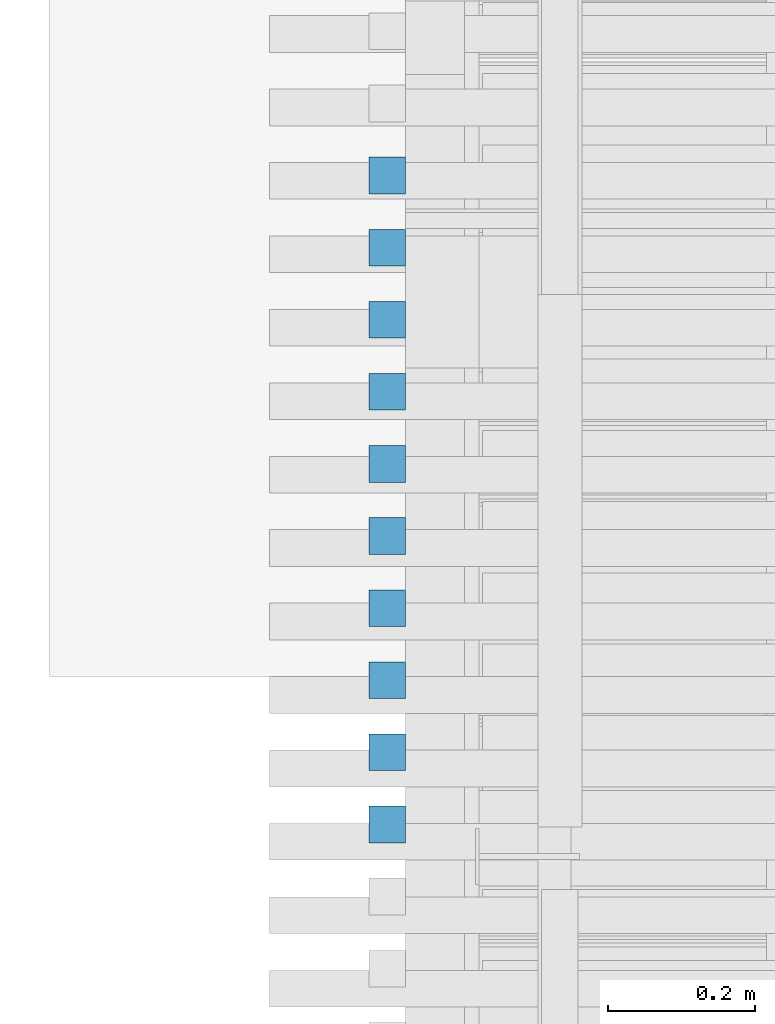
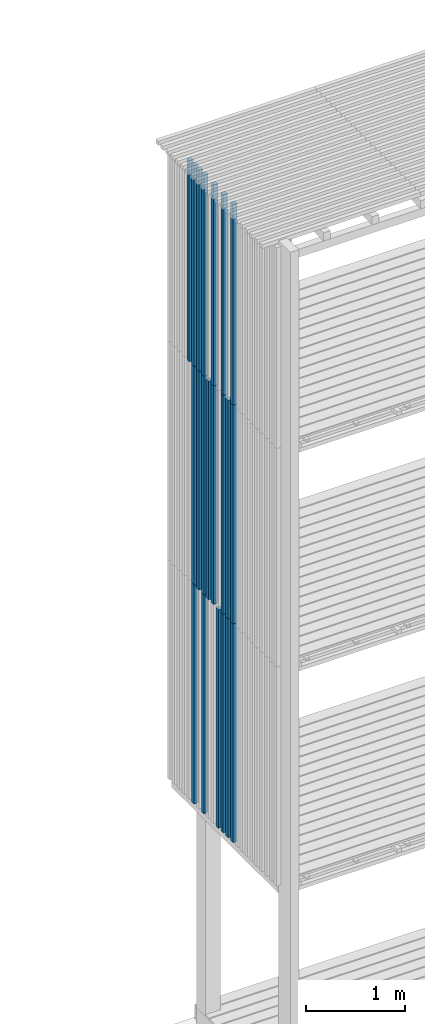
# One storey, part 141 of 182: 21 beams.
"""IFC2X3 building model written with IfcOpenShell, lengths in metres."""

from ifc_helpers import new_model, si_unit, frame, origin, place, context, project, spatial, faceted_brep, element, save


model = new_model("IFC2X3")

# Units and contexts
model_context = context("Model", 3, precision=1e-06, world=origin())
ifc_project = project(units=[si_unit("LENGTHUNIT", "METRE"), si_unit("PLANEANGLEUNIT", "RADIAN")], contexts=[model_context])

# Site, building, storey
site = spatial("IfcSite", under=ifc_project, CompositionType="ELEMENT")
building = spatial("IfcBuilding", under=site, CompositionType="ELEMENT")
storey = spatial("IfcBuildingStorey", under=building, Name="vs", CompositionType="ELEMENT", Elevation=-0.85)

# Beams
placement = place(None, origin())
beam_1_placement = place(placement, frame((33.029999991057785, 11.765077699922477, 7.974999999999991), z_axis=(1.0, 0.0, 0.0), x_axis=(0.0, 1e-15, 1.0)))
element("IfcBeam", 1, at=beam_1_placement, inside=storey, Name="Bardage", context=model_context, shape_type="Brep", body=[
    faceted_brep([(0.0, -0.025000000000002, 0.025000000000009), (0.0, 0.024999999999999, 0.025000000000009), (0.0, 0.024999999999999, -0.025000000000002), (0.0, -0.025000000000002, -0.025000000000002), (2.479999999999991, 0.025000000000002, -0.025000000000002), (2.479999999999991, 0.025000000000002, 0.025000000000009), (2.479999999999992, -0.025000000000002, 0.025000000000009), (2.479999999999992, -0.025000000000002, -0.025000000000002), (0.0, 0.024999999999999, 0.025000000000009), (0.0, -0.025000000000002, 0.025000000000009), (2.479999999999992, -0.025000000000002, 0.025000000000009), (2.479999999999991, 0.025000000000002, 0.025000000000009), (0.0, 0.024999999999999, -0.025000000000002), (0.0, 0.024999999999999, 0.025000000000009), (2.479999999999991, 0.025000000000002, 0.025000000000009), (2.479999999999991, 0.025000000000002, -0.025000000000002), (0.0, -0.025000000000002, -0.025000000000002), (0.0, 0.024999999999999, -0.025000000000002), (2.479999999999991, 0.025000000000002, -0.025000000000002), (2.479999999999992, -0.025000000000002, -0.025000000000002), (2.479999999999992, -0.025000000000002, 0.025000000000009), (0.0, -0.025000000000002, 0.025000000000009), (0.0, -0.025000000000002, -0.025000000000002), (2.479999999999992, -0.025000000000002, -0.025000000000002)], [[[0, 1, 2, 3]], [[4, 5, 6, 7]], [[8, 9, 10, 11]], [[12, 13, 14, 15]], [[16, 17, 18, 19]], [[20, 21, 22, 23]]]),
])
beam_2_placement = place(placement, frame((33.029999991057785, 12.157804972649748, 5.274999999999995), z_axis=(1.0, 0.0, 0.0), x_axis=(0.0, 0.0, 1.0)))
element("IfcBeam", 2, at=beam_2_placement, inside=storey, Name="Bardage", context=model_context, shape_type="Brep", body=[
    faceted_brep([(2.699999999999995, 0.024999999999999, 0.025000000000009), (2.699999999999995, -0.024999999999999, 0.025000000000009), (2.699999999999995, -0.024999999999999, -0.025000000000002), (2.699999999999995, 0.024999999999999, -0.025000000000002), (1e-15, 0.024999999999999, 0.025000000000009), (2.699999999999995, 0.024999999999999, 0.025000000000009), (2.699999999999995, 0.024999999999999, -0.025000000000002), (1e-15, 0.024999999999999, -0.025000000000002), (1e-15, -0.024999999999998, 0.025000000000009), (1e-15, 0.024999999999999, 0.025000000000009), (1e-15, 0.024999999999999, -0.025000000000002), (1e-15, -0.024999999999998, -0.025000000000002), (1e-15, 0.024999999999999, 0.025000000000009), (1e-15, -0.024999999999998, 0.025000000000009), (2.699999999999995, -0.024999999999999, 0.025000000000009), (2.699999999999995, 0.024999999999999, 0.025000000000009), (1e-15, -0.024999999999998, 0.025000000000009), (1e-15, -0.024999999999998, -0.025000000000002), (2.699999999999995, -0.024999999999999, -0.025000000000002), (2.699999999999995, -0.024999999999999, 0.025000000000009), (1e-15, -0.024999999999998, -0.025000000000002), (1e-15, 0.024999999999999, -0.025000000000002), (2.699999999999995, 0.024999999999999, -0.025000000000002), (2.699999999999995, -0.024999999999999, -0.025000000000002)], [[[0, 1, 2, 3]], [[4, 5, 6, 7]], [[8, 9, 10, 11]], [[12, 13, 14, 15]], [[16, 17, 18, 19]], [[20, 21, 22, 23]]]),
])
beam_3_placement = place(placement, frame((33.029999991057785, 11.765077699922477, 5.274999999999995), z_axis=(1.0, 0.0, 0.0), x_axis=(0.0, 1e-15, 1.0)))
element("IfcBeam", 3, at=beam_3_placement, inside=storey, Name="Bardage", context=model_context, shape_type="Brep", body=[
    faceted_brep([(2.699999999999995, 0.025000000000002, 0.025000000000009), (2.699999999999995, -0.025000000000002, 0.025000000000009), (2.699999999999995, -0.025000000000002, -0.025000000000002), (2.699999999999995, 0.025000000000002, -0.025000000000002), (1e-15, 0.024999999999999, 0.025000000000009), (2.699999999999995, 0.025000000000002, 0.025000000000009), (2.699999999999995, 0.025000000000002, -0.025000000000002), (1e-15, 0.024999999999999, -0.025000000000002), (1e-15, -0.025000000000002, 0.025000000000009), (1e-15, 0.024999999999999, 0.025000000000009), (1e-15, 0.024999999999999, -0.025000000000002), (1e-15, -0.025000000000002, -0.025000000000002), (1e-15, 0.024999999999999, 0.025000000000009), (1e-15, -0.025000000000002, 0.025000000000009), (2.699999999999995, -0.025000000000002, 0.025000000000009), (2.699999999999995, 0.025000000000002, 0.025000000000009), (1e-15, -0.025000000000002, 0.025000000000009), (1e-15, -0.025000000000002, -0.025000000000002), (2.699999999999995, -0.025000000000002, -0.025000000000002), (2.699999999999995, -0.025000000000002, 0.025000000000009), (1e-15, -0.025000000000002, -0.025000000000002), (1e-15, 0.024999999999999, -0.025000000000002), (2.699999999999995, 0.025000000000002, -0.025000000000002), (2.699999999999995, -0.025000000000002, -0.025000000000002)], [[[0, 1, 2, 3]], [[4, 5, 6, 7]], [[8, 9, 10, 11]], [[12, 13, 14, 15]], [[16, 17, 18, 19]], [[20, 21, 22, 23]]]),
])
beam_4_placement = place(placement, frame((33.029999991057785, 11.666895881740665, 2.575000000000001), z_axis=(1.0, 0.0, 0.0), x_axis=(0.0, 0.0, 1.0)))
element("IfcBeam", 4, at=beam_4_placement, inside=storey, Name="Bardage", context=model_context, shape_type="Brep", body=[
    faceted_brep([(2.699961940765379, -0.024999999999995, 0.025000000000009), (2.699961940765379, -0.024999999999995, -0.025000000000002), (2.699961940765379, 0.025000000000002, -0.025000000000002), (2.699961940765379, 0.025000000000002, 0.025000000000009), (0.0, -0.024999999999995, 0.025000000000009), (2.699961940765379, -0.024999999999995, 0.025000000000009), (2.699961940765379, 0.025000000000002, 0.025000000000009), (0.0, 0.025000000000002, 0.025000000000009), (0.0, -0.024999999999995, 0.025000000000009), (0.0, 0.025000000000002, 0.025000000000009), (0.0, 0.025000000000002, -0.025000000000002), (0.0, -0.024999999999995, -0.025000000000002), (0.0, -0.024999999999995, 0.025000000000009), (0.0, -0.024999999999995, -0.025000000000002), (2.699961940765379, -0.024999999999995, -0.025000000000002), (2.699961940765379, -0.024999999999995, 0.025000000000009), (0.0, -0.024999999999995, -0.025000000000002), (0.0, 0.025000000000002, -0.025000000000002), (2.699961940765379, 0.025000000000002, -0.025000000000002), (2.699961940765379, -0.024999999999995, -0.025000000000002), (0.0, 0.025000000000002, -0.025000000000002), (0.0, 0.025000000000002, 0.025000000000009), (2.699961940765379, 0.025000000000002, 0.025000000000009), (2.699961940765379, 0.025000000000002, -0.025000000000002)], [[[0, 1, 2, 3]], [[4, 5, 6, 7]], [[8, 9, 10, 11]], [[12, 13, 14, 15]], [[16, 17, 18, 19]], [[20, 21, 22, 23]]]),
])
beam_5_placement = place(placement, frame((33.029999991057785, 12.354168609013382, 7.974999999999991), z_axis=(1.0, 0.0, 0.0), x_axis=(0.0, 0.0, 1.0)))
element("IfcBeam", 5, at=beam_5_placement, inside=storey, Name="Bardage", context=model_context, shape_type="Brep", body=[
    faceted_brep([(0.0, -0.024999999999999, 0.025000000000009), (0.0, 0.025000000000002, 0.025000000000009), (0.0, 0.025000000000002, -0.025000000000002), (0.0, -0.024999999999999, -0.025000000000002), (2.479999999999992, 0.025000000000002, -0.025000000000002), (2.479999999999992, 0.025000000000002, 0.025000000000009), (2.479999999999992, -0.024999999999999, 0.025000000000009), (2.479999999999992, -0.024999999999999, -0.025000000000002), (0.0, 0.025000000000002, 0.025000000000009), (0.0, -0.024999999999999, 0.025000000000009), (2.479999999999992, -0.024999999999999, 0.025000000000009), (2.479999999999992, 0.025000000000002, 0.025000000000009), (0.0, 0.025000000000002, -0.025000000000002), (0.0, 0.025000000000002, 0.025000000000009), (2.479999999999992, 0.025000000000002, 0.025000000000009), (2.479999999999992, 0.025000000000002, -0.025000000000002), (0.0, -0.024999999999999, -0.025000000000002), (0.0, 0.025000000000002, -0.025000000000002), (2.479999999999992, 0.025000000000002, -0.025000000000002), (2.479999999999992, -0.024999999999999, -0.025000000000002), (2.479999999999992, -0.024999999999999, 0.025000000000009), (0.0, -0.024999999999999, 0.025000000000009), (0.0, -0.024999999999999, -0.025000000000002), (2.479999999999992, -0.024999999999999, -0.025000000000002)], [[[0, 1, 2, 3]], [[4, 5, 6, 7]], [[8, 9, 10, 11]], [[12, 13, 14, 15]], [[16, 17, 18, 19]], [[20, 21, 22, 23]]]),
])
for number, where, z_axis, x_axis in (
    (6, (33.029999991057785, 11.961441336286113, 7.974999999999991), (1.0, 0.0, 0.0), (0.0, 0.0, 1.0)),
    (7, (33.029999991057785, 12.157804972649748, 7.974999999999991), (1.0, 0.0, 0.0), (0.0, 0.0, 1.0)),
):
    element("IfcBeam", number, at=place(placement, frame(where, z_axis=z_axis, x_axis=x_axis)), inside=storey, Name="Bardage", context=model_context, shape_type="Brep", body=[
        faceted_brep([(0.0, -0.024999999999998, 0.025000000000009), (0.0, 0.024999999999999, 0.025000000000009), (0.0, 0.024999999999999, -0.025000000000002), (0.0, -0.024999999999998, -0.025000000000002), (2.479999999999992, 0.024999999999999, -0.025000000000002), (2.479999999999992, 0.024999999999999, 0.025000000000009), (2.479999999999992, -0.024999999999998, 0.025000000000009), (2.479999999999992, -0.024999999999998, -0.025000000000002), (0.0, 0.024999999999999, 0.025000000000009), (0.0, -0.024999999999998, 0.025000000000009), (2.479999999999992, -0.024999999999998, 0.025000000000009), (2.479999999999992, 0.024999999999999, 0.025000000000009), (0.0, 0.024999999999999, -0.025000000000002), (0.0, 0.024999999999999, 0.025000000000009), (2.479999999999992, 0.024999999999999, 0.025000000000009), (2.479999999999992, 0.024999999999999, -0.025000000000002), (0.0, -0.024999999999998, -0.025000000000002), (0.0, 0.024999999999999, -0.025000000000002), (2.479999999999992, 0.024999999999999, -0.025000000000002), (2.479999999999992, -0.024999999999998, -0.025000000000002), (2.479999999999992, -0.024999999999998, 0.025000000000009), (0.0, -0.024999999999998, 0.025000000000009), (0.0, -0.024999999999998, -0.025000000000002), (2.479999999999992, -0.024999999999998, -0.025000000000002)], [[[0, 1, 2, 3]], [[4, 5, 6, 7]], [[8, 9, 10, 11]], [[12, 13, 14, 15]], [[16, 17, 18, 19]], [[20, 21, 22, 23]]]),
    ])
beam_6_placement = place(placement, frame((33.029999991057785, 12.059623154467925, 5.274999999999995), z_axis=(1.0, 0.0, 0.0), x_axis=(0.0, 0.0, 1.0)))
element("IfcBeam", 8, at=beam_6_placement, inside=storey, Name="Bardage", context=model_context, shape_type="Brep", body=[
    faceted_brep([(2.699999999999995, 0.024999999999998, 0.025000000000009), (2.699999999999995, -0.025000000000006, 0.025000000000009), (2.699999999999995, -0.025000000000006, -0.025000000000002), (2.699999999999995, 0.024999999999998, -0.025000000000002), (1e-15, 0.024999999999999, 0.025000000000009), (2.699999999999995, 0.024999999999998, 0.025000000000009), (2.699999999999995, 0.024999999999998, -0.025000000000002), (1e-15, 0.024999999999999, -0.025000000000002), (1e-15, -0.025000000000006, 0.025000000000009), (1e-15, 0.024999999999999, 0.025000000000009), (1e-15, 0.024999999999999, -0.025000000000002), (1e-15, -0.025000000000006, -0.025000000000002), (1e-15, 0.024999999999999, 0.025000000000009), (1e-15, -0.025000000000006, 0.025000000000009), (2.699999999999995, -0.025000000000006, 0.025000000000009), (2.699999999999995, 0.024999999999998, 0.025000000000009), (1e-15, -0.025000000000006, 0.025000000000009), (1e-15, -0.025000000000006, -0.025000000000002), (2.699999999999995, -0.025000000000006, -0.025000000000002), (2.699999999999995, -0.025000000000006, 0.025000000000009), (1e-15, -0.025000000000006, -0.025000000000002), (1e-15, 0.024999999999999, -0.025000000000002), (2.699999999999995, 0.024999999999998, -0.025000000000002), (2.699999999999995, -0.025000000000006, -0.025000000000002)], [[[0, 1, 2, 3]], [[4, 5, 6, 7]], [[8, 9, 10, 11]], [[12, 13, 14, 15]], [[16, 17, 18, 19]], [[20, 21, 22, 23]]]),
])
beam_7_placement = place(placement, frame((33.029999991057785, 11.961441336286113, 5.274999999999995), z_axis=(1.0, 0.0, 0.0), x_axis=(0.0, 0.0, 1.0)))
element("IfcBeam", 9, at=beam_7_placement, inside=storey, Name="Bardage", context=model_context, shape_type="Brep", body=[
    faceted_brep([(2.699999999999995, 0.024999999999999, 0.025000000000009), (2.699999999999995, -0.024999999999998, 0.025000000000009), (2.699999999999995, -0.024999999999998, -0.025000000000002), (2.699999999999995, 0.024999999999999, -0.025000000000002), (1e-15, 0.024999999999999, 0.025000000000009), (2.699999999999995, 0.024999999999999, 0.025000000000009), (2.699999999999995, 0.024999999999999, -0.025000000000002), (1e-15, 0.024999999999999, -0.025000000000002), (1e-15, -0.024999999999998, 0.025000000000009), (1e-15, 0.024999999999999, 0.025000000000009), (1e-15, 0.024999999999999, -0.025000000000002), (1e-15, -0.024999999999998, -0.025000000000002), (1e-15, 0.024999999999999, 0.025000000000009), (1e-15, -0.024999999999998, 0.025000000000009), (2.699999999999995, -0.024999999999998, 0.025000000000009), (2.699999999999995, 0.024999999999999, 0.025000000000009), (1e-15, -0.024999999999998, 0.025000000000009), (1e-15, -0.024999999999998, -0.025000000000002), (2.699999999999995, -0.024999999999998, -0.025000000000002), (2.699999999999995, -0.024999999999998, 0.025000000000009), (1e-15, -0.024999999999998, -0.025000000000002), (1e-15, 0.024999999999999, -0.025000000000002), (2.699999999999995, 0.024999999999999, -0.025000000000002), (2.699999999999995, -0.024999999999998, -0.025000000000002)], [[[0, 1, 2, 3]], [[4, 5, 6, 7]], [[8, 9, 10, 11]], [[12, 13, 14, 15]], [[16, 17, 18, 19]], [[20, 21, 22, 23]]]),
])
beam_8_placement = place(placement, frame((33.029999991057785, 11.568714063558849, 5.274999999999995), z_axis=(1.0, 0.0, 0.0), x_axis=(0.0, 0.0, 1.0)))
element("IfcBeam", 10, at=beam_8_placement, inside=storey, Name="Bardage", context=model_context, shape_type="Brep", body=[
    faceted_brep([(2.699999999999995, 0.025000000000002, 0.025000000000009), (2.699999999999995, -0.024999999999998, 0.025000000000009), (2.699999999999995, -0.024999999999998, -0.025000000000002), (2.699999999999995, 0.025000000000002, -0.025000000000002), (1e-15, 0.025000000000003, 0.025000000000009), (2.699999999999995, 0.025000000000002, 0.025000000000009), (2.699999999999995, 0.025000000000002, -0.025000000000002), (1e-15, 0.025000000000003, -0.025000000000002), (1e-15, -0.024999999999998, 0.025000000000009), (1e-15, 0.025000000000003, 0.025000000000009), (1e-15, 0.025000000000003, -0.025000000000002), (1e-15, -0.024999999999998, -0.025000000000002), (1e-15, 0.025000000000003, 0.025000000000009), (1e-15, -0.024999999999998, 0.025000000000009), (2.699999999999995, -0.024999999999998, 0.025000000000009), (2.699999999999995, 0.025000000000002, 0.025000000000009), (1e-15, -0.024999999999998, 0.025000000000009), (1e-15, -0.024999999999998, -0.025000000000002), (2.699999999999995, -0.024999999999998, -0.025000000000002), (2.699999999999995, -0.024999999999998, 0.025000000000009), (1e-15, -0.024999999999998, -0.025000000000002), (1e-15, 0.025000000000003, -0.025000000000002), (2.699999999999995, 0.025000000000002, -0.025000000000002), (2.699999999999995, -0.024999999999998, -0.025000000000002)], [[[0, 1, 2, 3]], [[4, 5, 6, 7]], [[8, 9, 10, 11]], [[12, 13, 14, 15]], [[16, 17, 18, 19]], [[20, 21, 22, 23]]]),
])
beam_9_placement = place(placement, frame((33.029999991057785, 12.354168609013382, 2.575000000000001), z_axis=(1.0, 0.0, 0.0), x_axis=(0.0, 0.0, 1.0)))
element("IfcBeam", 11, at=beam_9_placement, inside=storey, Name="Bardage", context=model_context, shape_type="Brep", body=[
    faceted_brep([(2.699961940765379, -0.024999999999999, 0.025000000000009), (2.699961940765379, -0.024999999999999, -0.025000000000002), (2.699961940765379, 0.025000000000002, -0.025000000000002), (2.699961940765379, 0.025000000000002, 0.025000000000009), (0.0, -0.024999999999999, 0.025000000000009), (2.699961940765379, -0.024999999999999, 0.025000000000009), (2.699961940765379, 0.025000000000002, 0.025000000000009), (0.0, 0.025000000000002, 0.025000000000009), (0.0, -0.024999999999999, 0.025000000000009), (0.0, 0.025000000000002, 0.025000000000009), (0.0, 0.025000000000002, -0.025000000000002), (0.0, -0.024999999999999, -0.025000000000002), (0.0, -0.024999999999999, 0.025000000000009), (0.0, -0.024999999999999, -0.025000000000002), (2.699961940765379, -0.024999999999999, -0.025000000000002), (2.699961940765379, -0.024999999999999, 0.025000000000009), (0.0, -0.024999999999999, -0.025000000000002), (0.0, 0.025000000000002, -0.025000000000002), (2.699961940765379, 0.025000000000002, -0.025000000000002), (2.699961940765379, -0.024999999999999, -0.025000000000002), (0.0, 0.025000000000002, -0.025000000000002), (0.0, 0.025000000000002, 0.025000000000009), (2.699961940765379, 0.025000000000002, 0.025000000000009), (2.699961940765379, 0.025000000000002, -0.025000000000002)], [[[0, 1, 2, 3]], [[4, 5, 6, 7]], [[8, 9, 10, 11]], [[12, 13, 14, 15]], [[16, 17, 18, 19]], [[20, 21, 22, 23]]]),
])
beam_10_placement = place(placement, frame((33.029999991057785, 11.568714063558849, 2.575000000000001), z_axis=(1.0, 0.0, 0.0), x_axis=(0.0, 0.0, 1.0)))
element("IfcBeam", 12, at=beam_10_placement, inside=storey, Name="Bardage", context=model_context, shape_type="Brep", body=[
    faceted_brep([(2.699961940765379, -0.024999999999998, 0.025000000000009), (2.699961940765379, -0.024999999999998, -0.025000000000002), (2.699961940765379, 0.025000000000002, -0.025000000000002), (2.699961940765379, 0.025000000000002, 0.025000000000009), (0.0, -0.024999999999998, 0.025000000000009), (2.699961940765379, -0.024999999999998, 0.025000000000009), (2.699961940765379, 0.025000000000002, 0.025000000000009), (0.0, 0.025000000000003, 0.025000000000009), (0.0, -0.024999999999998, 0.025000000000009), (0.0, 0.025000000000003, 0.025000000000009), (0.0, 0.025000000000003, -0.025000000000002), (0.0, -0.024999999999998, -0.025000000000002), (0.0, -0.024999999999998, 0.025000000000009), (0.0, -0.024999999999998, -0.025000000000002), (2.699961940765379, -0.024999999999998, -0.025000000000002), (2.699961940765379, -0.024999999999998, 0.025000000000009), (0.0, -0.024999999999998, -0.025000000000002), (0.0, 0.025000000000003, -0.025000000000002), (2.699961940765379, 0.025000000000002, -0.025000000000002), (2.699961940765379, -0.024999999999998, -0.025000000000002), (0.0, 0.025000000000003, -0.025000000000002), (0.0, 0.025000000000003, 0.025000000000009), (2.699961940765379, 0.025000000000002, 0.025000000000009), (2.699961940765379, 0.025000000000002, -0.025000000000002)], [[[0, 1, 2, 3]], [[4, 5, 6, 7]], [[8, 9, 10, 11]], [[12, 13, 14, 15]], [[16, 17, 18, 19]], [[20, 21, 22, 23]]]),
])
beam_11_placement = place(placement, frame((33.029999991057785, 12.255986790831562, 7.974999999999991), z_axis=(1.0, 0.0, 0.0), x_axis=(0.0, 0.0, 1.0)))
element("IfcBeam", 13, at=beam_11_placement, inside=storey, Name="Bardage", context=model_context, shape_type="Brep", body=[
    faceted_brep([(0.0, -0.025000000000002, 0.025000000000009), (0.0, 0.024999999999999, 0.025000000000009), (0.0, 0.024999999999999, -0.025000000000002), (0.0, -0.025000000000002, -0.025000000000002), (2.479999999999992, 0.024999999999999, -0.025000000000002), (2.479999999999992, 0.024999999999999, 0.025000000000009), (2.479999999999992, -0.025000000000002, 0.025000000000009), (2.479999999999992, -0.025000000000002, -0.025000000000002), (0.0, 0.024999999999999, 0.025000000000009), (0.0, -0.025000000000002, 0.025000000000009), (2.479999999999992, -0.025000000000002, 0.025000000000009), (2.479999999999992, 0.024999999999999, 0.025000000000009), (0.0, 0.024999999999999, -0.025000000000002), (0.0, 0.024999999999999, 0.025000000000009), (2.479999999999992, 0.024999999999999, 0.025000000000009), (2.479999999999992, 0.024999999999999, -0.025000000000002), (0.0, -0.025000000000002, -0.025000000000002), (0.0, 0.024999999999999, -0.025000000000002), (2.479999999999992, 0.024999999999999, -0.025000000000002), (2.479999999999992, -0.025000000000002, -0.025000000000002), (2.479999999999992, -0.025000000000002, 0.025000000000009), (0.0, -0.025000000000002, 0.025000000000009), (0.0, -0.025000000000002, -0.025000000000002), (2.479999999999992, -0.025000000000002, -0.025000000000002)], [[[0, 1, 2, 3]], [[4, 5, 6, 7]], [[8, 9, 10, 11]], [[12, 13, 14, 15]], [[16, 17, 18, 19]], [[20, 21, 22, 23]]]),
])
beam_12_placement = place(placement, frame((33.029999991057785, 11.568714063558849, 7.974999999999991), z_axis=(1.0, 0.0, 0.0), x_axis=(0.0, 0.0, 1.0)))
element("IfcBeam", 14, at=beam_12_placement, inside=storey, Name="Bardage", context=model_context, shape_type="Brep", body=[
    faceted_brep([(0.0, -0.024999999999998, 0.025000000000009), (0.0, 0.025000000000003, 0.025000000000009), (0.0, 0.025000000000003, -0.025000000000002), (0.0, -0.024999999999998, -0.025000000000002), (2.479999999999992, 0.025000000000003, -0.025000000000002), (2.479999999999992, 0.025000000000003, 0.025000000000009), (2.479999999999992, -0.024999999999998, 0.025000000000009), (2.479999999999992, -0.024999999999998, -0.025000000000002), (0.0, 0.025000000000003, 0.025000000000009), (0.0, -0.024999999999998, 0.025000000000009), (2.479999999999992, -0.024999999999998, 0.025000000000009), (2.479999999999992, 0.025000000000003, 0.025000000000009), (0.0, 0.025000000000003, -0.025000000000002), (0.0, 0.025000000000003, 0.025000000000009), (2.479999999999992, 0.025000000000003, 0.025000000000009), (2.479999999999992, 0.025000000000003, -0.025000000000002), (0.0, -0.024999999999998, -0.025000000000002), (0.0, 0.025000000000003, -0.025000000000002), (2.479999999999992, 0.025000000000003, -0.025000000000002), (2.479999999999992, -0.024999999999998, -0.025000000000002), (2.479999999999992, -0.024999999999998, 0.025000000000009), (0.0, -0.024999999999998, 0.025000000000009), (0.0, -0.024999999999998, -0.025000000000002), (2.479999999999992, -0.024999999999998, -0.025000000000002)], [[[0, 1, 2, 3]], [[4, 5, 6, 7]], [[8, 9, 10, 11]], [[12, 13, 14, 15]], [[16, 17, 18, 19]], [[20, 21, 22, 23]]]),
])
beam_13_placement = place(placement, frame((33.029999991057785, 11.666895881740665, 5.274999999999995), z_axis=(1.0, 0.0, 0.0), x_axis=(0.0, 0.0, 1.0)))
element("IfcBeam", 15, at=beam_13_placement, inside=storey, Name="Bardage", context=model_context, shape_type="Brep", body=[
    faceted_brep([(2.699999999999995, 0.025000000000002, 0.025000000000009), (2.699999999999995, -0.024999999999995, 0.025000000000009), (2.699999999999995, -0.024999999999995, -0.025000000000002), (2.699999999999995, 0.025000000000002, -0.025000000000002), (1e-15, 0.025000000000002, 0.025000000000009), (2.699999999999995, 0.025000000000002, 0.025000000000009), (2.699999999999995, 0.025000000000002, -0.025000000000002), (1e-15, 0.025000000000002, -0.025000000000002), (1e-15, -0.024999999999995, 0.025000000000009), (1e-15, 0.025000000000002, 0.025000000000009), (1e-15, 0.025000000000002, -0.025000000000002), (1e-15, -0.024999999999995, -0.025000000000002), (1e-15, 0.025000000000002, 0.025000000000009), (1e-15, -0.024999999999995, 0.025000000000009), (2.699999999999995, -0.024999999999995, 0.025000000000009), (2.699999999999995, 0.025000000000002, 0.025000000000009), (1e-15, -0.024999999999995, 0.025000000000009), (1e-15, -0.024999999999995, -0.025000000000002), (2.699999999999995, -0.024999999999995, -0.025000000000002), (2.699999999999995, -0.024999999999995, 0.025000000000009), (1e-15, -0.024999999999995, -0.025000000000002), (1e-15, 0.025000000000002, -0.025000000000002), (2.699999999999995, 0.025000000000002, -0.025000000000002), (2.699999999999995, -0.024999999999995, -0.025000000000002)], [[[0, 1, 2, 3]], [[4, 5, 6, 7]], [[8, 9, 10, 11]], [[12, 13, 14, 15]], [[16, 17, 18, 19]], [[20, 21, 22, 23]]]),
])
beam_14_placement = place(placement, frame((33.029999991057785, 12.354168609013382, 5.274999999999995), z_axis=(1.0, 0.0, 0.0), x_axis=(0.0, 0.0, 1.0)))
element("IfcBeam", 16, at=beam_14_placement, inside=storey, Name="Bardage", context=model_context, shape_type="Brep", body=[
    faceted_brep([(2.699999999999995, 0.025000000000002, 0.025000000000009), (2.699999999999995, -0.024999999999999, 0.025000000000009), (2.699999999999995, -0.024999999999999, -0.025000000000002), (2.699999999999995, 0.025000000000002, -0.025000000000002), (1e-15, 0.025000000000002, 0.025000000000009), (2.699999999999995, 0.025000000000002, 0.025000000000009), (2.699999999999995, 0.025000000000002, -0.025000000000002), (1e-15, 0.025000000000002, -0.025000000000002), (1e-15, -0.024999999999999, 0.025000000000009), (1e-15, 0.025000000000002, 0.025000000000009), (1e-15, 0.025000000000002, -0.025000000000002), (1e-15, -0.024999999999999, -0.025000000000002), (1e-15, 0.025000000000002, 0.025000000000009), (1e-15, -0.024999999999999, 0.025000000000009), (2.699999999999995, -0.024999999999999, 0.025000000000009), (2.699999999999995, 0.025000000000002, 0.025000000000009), (1e-15, -0.024999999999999, 0.025000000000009), (1e-15, -0.024999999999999, -0.025000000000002), (2.699999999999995, -0.024999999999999, -0.025000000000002), (2.699999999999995, -0.024999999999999, 0.025000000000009), (1e-15, -0.024999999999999, -0.025000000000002), (1e-15, 0.025000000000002, -0.025000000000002), (2.699999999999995, 0.025000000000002, -0.025000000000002), (2.699999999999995, -0.024999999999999, -0.025000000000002)], [[[0, 1, 2, 3]], [[4, 5, 6, 7]], [[8, 9, 10, 11]], [[12, 13, 14, 15]], [[16, 17, 18, 19]], [[20, 21, 22, 23]]]),
])
beam_15_placement = place(placement, frame((33.029999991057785, 11.765077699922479, 2.575000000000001), z_axis=(1.0, 0.0, 0.0), x_axis=(0.0, 0.0, 1.0)))
element("IfcBeam", 17, at=beam_15_placement, inside=storey, Name="Bardage", context=model_context, shape_type="Brep", body=[
    faceted_brep([(2.699961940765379, -0.025000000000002, 0.025000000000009), (2.699961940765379, -0.025000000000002, -0.025000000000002), (2.699961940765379, 0.025000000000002, -0.025000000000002), (2.699961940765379, 0.025000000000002, 0.025000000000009), (0.0, -0.025000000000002, 0.025000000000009), (2.699961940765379, -0.025000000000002, 0.025000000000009), (2.699961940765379, 0.025000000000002, 0.025000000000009), (0.0, 0.025000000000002, 0.025000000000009), (0.0, -0.025000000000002, 0.025000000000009), (0.0, 0.025000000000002, 0.025000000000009), (0.0, 0.025000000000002, -0.025000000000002), (0.0, -0.025000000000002, -0.025000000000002), (0.0, -0.025000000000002, 0.025000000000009), (0.0, -0.025000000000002, -0.025000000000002), (2.699961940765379, -0.025000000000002, -0.025000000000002), (2.699961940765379, -0.025000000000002, 0.025000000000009), (0.0, -0.025000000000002, -0.025000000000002), (0.0, 0.025000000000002, -0.025000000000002), (2.699961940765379, 0.025000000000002, -0.025000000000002), (2.699961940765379, -0.025000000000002, -0.025000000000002), (0.0, 0.025000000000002, -0.025000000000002), (0.0, 0.025000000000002, 0.025000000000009), (2.699961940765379, 0.025000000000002, 0.025000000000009), (2.699961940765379, 0.025000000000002, -0.025000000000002)], [[[0, 1, 2, 3]], [[4, 5, 6, 7]], [[8, 9, 10, 11]], [[12, 13, 14, 15]], [[16, 17, 18, 19]], [[20, 21, 22, 23]]]),
])
beam_16_placement = place(placement, frame((33.029999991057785, 11.863259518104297, 2.575000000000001), z_axis=(1.0, 0.0, 0.0), x_axis=(0.0, 0.0, 1.0)))
element("IfcBeam", 18, at=beam_16_placement, inside=storey, Name="Bardage", context=model_context, shape_type="Brep", body=[
    faceted_brep([(2.699961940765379, -0.024999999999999, 0.025000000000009), (2.699961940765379, -0.024999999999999, -0.025000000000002), (2.699961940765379, 0.024999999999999, -0.025000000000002), (2.699961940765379, 0.024999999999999, 0.025000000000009), (0.0, -0.024999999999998, 0.025000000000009), (2.699961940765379, -0.024999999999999, 0.025000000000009), (2.699961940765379, 0.024999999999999, 0.025000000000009), (0.0, 0.025000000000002, 0.025000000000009), (0.0, -0.024999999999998, 0.025000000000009), (0.0, 0.025000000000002, 0.025000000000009), (0.0, 0.025000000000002, -0.025000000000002), (0.0, -0.024999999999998, -0.025000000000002), (0.0, -0.024999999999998, 0.025000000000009), (0.0, -0.024999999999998, -0.025000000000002), (2.699961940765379, -0.024999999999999, -0.025000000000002), (2.699961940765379, -0.024999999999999, 0.025000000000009), (0.0, -0.024999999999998, -0.025000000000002), (0.0, 0.025000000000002, -0.025000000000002), (2.699961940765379, 0.024999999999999, -0.025000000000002), (2.699961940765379, -0.024999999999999, -0.025000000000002), (0.0, 0.025000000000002, -0.025000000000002), (0.0, 0.025000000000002, 0.025000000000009), (2.699961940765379, 0.024999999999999, 0.025000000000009), (2.699961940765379, 0.024999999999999, -0.025000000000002)], [[[0, 1, 2, 3]], [[4, 5, 6, 7]], [[8, 9, 10, 11]], [[12, 13, 14, 15]], [[16, 17, 18, 19]], [[20, 21, 22, 23]]]),
])
beam_17_placement = place(placement, frame((33.029999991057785, 12.157804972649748, 2.575000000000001), z_axis=(1.0, 0.0, 0.0), x_axis=(0.0, 0.0, 1.0)))
element("IfcBeam", 19, at=beam_17_placement, inside=storey, Name="Bardage", context=model_context, shape_type="Brep", body=[
    faceted_brep([(2.699961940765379, -0.024999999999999, 0.025000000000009), (2.699961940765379, -0.024999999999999, -0.025000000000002), (2.699961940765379, 0.024999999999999, -0.025000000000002), (2.699961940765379, 0.024999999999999, 0.025000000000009), (0.0, -0.024999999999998, 0.025000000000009), (2.699961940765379, -0.024999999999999, 0.025000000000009), (2.699961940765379, 0.024999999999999, 0.025000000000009), (0.0, 0.024999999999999, 0.025000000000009), (0.0, -0.024999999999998, 0.025000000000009), (0.0, 0.024999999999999, 0.025000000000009), (0.0, 0.024999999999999, -0.025000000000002), (0.0, -0.024999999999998, -0.025000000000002), (0.0, -0.024999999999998, 0.025000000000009), (0.0, -0.024999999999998, -0.025000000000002), (2.699961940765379, -0.024999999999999, -0.025000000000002), (2.699961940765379, -0.024999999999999, 0.025000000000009), (0.0, -0.024999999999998, -0.025000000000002), (0.0, 0.024999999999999, -0.025000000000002), (2.699961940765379, 0.024999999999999, -0.025000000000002), (2.699961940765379, -0.024999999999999, -0.025000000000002), (0.0, 0.024999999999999, -0.025000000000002), (0.0, 0.024999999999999, 0.025000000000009), (2.699961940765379, 0.024999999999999, 0.025000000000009), (2.699961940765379, 0.024999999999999, -0.025000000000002)], [[[0, 1, 2, 3]], [[4, 5, 6, 7]], [[8, 9, 10, 11]], [[12, 13, 14, 15]], [[16, 17, 18, 19]], [[20, 21, 22, 23]]]),
])
beam_18_placement = place(placement, frame((33.029999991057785, 12.452350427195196, 7.974999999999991), z_axis=(1.0, 0.0, 0.0), x_axis=(0.0, 0.0, 1.0)))
element("IfcBeam", 20, at=beam_18_placement, inside=storey, Name="Bardage", context=model_context, shape_type="Brep", body=[
    faceted_brep([(0.0, -0.024999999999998, 0.025000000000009), (0.0, 0.024999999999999, 0.025000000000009), (0.0, 0.024999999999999, -0.025000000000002), (0.0, -0.024999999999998, -0.025000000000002), (2.479999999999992, 0.024999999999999, -0.025000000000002), (2.479999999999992, 0.024999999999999, 0.025000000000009), (2.479999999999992, -0.024999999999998, 0.025000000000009), (2.479999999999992, -0.024999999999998, -0.025000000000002), (0.0, 0.024999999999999, 0.025000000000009), (0.0, -0.024999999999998, 0.025000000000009), (2.479999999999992, -0.024999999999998, 0.025000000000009), (2.479999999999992, 0.024999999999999, 0.025000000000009), (0.0, 0.024999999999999, -0.025000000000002), (0.0, 0.024999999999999, 0.025000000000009), (2.479999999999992, 0.024999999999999, 0.025000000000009), (2.479999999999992, 0.024999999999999, -0.025000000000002), (0.0, -0.024999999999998, -0.025000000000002), (0.0, 0.024999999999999, -0.025000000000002), (2.479999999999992, 0.024999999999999, -0.025000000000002), (2.479999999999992, -0.024999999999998, -0.025000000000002), (2.479999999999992, -0.024999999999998, 0.025000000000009), (0.0, -0.024999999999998, 0.025000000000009), (0.0, -0.024999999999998, -0.025000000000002), (2.479999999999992, -0.024999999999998, -0.025000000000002)], [[[0, 1, 2, 3]], [[4, 5, 6, 7]], [[8, 9, 10, 11]], [[12, 13, 14, 15]], [[16, 17, 18, 19]], [[20, 21, 22, 23]]]),
])
beam_19_placement = place(placement, frame((33.029999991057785, 12.255986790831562, 5.274999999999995), z_axis=(1.0, 0.0, 0.0), x_axis=(0.0, 0.0, 1.0)))
element("IfcBeam", 21, at=beam_19_placement, inside=storey, Name="Bardage", context=model_context, shape_type="Brep", body=[
    faceted_brep([(2.699999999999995, 0.024999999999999, 0.025000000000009), (2.699999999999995, -0.025000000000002, 0.025000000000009), (2.699999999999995, -0.025000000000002, -0.025000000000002), (2.699999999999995, 0.024999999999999, -0.025000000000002), (1e-15, 0.024999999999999, 0.025000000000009), (2.699999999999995, 0.024999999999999, 0.025000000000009), (2.699999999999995, 0.024999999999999, -0.025000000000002), (1e-15, 0.024999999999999, -0.025000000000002), (1e-15, -0.025000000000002, 0.025000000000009), (1e-15, 0.024999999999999, 0.025000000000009), (1e-15, 0.024999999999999, -0.025000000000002), (1e-15, -0.025000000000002, -0.025000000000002), (1e-15, 0.024999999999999, 0.025000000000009), (1e-15, -0.025000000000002, 0.025000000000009), (2.699999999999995, -0.025000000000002, 0.025000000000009), (2.699999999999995, 0.024999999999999, 0.025000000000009), (1e-15, -0.025000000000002, 0.025000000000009), (1e-15, -0.025000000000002, -0.025000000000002), (2.699999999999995, -0.025000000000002, -0.025000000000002), (2.699999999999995, -0.025000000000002, 0.025000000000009), (1e-15, -0.025000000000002, -0.025000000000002), (1e-15, 0.024999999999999, -0.025000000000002), (2.699999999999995, 0.024999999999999, -0.025000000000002), (2.699999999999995, -0.025000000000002, -0.025000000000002)], [[[0, 1, 2, 3]], [[4, 5, 6, 7]], [[8, 9, 10, 11]], [[12, 13, 14, 15]], [[16, 17, 18, 19]], [[20, 21, 22, 23]]]),
])

save(model, "model.ifc")
